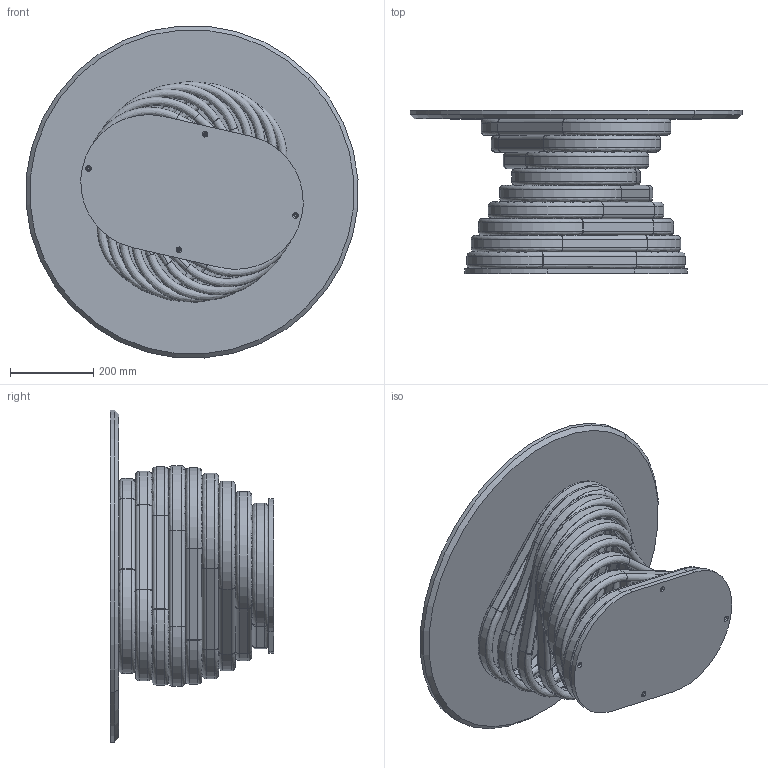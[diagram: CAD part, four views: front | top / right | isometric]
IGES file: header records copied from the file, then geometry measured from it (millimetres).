
Start section: SolidWorks IGES file using analytic representation for surfaces
Global section: file name: Y:\eforma\TECNICO\SOLIDWORKS\E-FORMA\2-TAVOLINI\ROTOLO LOW\02 parts\RL12M.IGS; native system: SolidWorks 2022; preprocessor: SolidWorks 2022; author: eforma.tech; date: 240806.143426; units: millimetre
Bounding box: 797.67 x 392 x 797.67 mm (x, y, z)
Volume: 14469908.3 mm3; surface area: 3859708 mm2
Topology: 46 solids, 46 shells, 632 faces, 1518 edges, 968 vertices
Faces by surface type: revolution 397, plane 230, bspline 5
